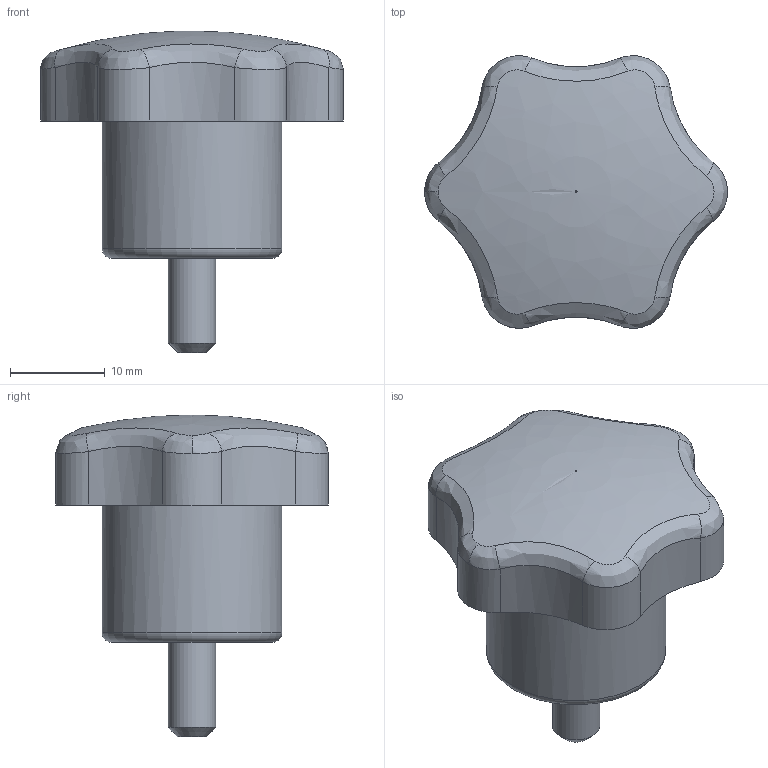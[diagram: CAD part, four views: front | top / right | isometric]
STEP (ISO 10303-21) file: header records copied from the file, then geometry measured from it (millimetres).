
FILE_DESCRIPTION( ('This file contains a STEP AP42 implementation' ,'as created by ZW3D STEP Interface translator.') ,'2;1' );
FILE_NAME( 'Rekojesc gwiazdowa z trzpieniem gwintowanym 32.stp' ,'26 326.143115', (''), ('ZWCAD Software Co.'), 'Version 1.0', 'ZW3D to STEP translator', '' );
FILE_SCHEMA(('AP242_MANAGED_MODEL_BASED_3D_ENGINEERING_MIM_LF { 1 0 10303 442 1 1 4 }'));
Length unit declared in the file: millimetre
Products named in the file (1): 0
Bounding box: 31.99 x 28.78 x 34 mm (x, y, z)
Volume: 9091.1 mm3; surface area: 4258.9 mm2
Topology: 2 solids, 2 shells, 88 faces, 225 edges, 145 vertices
Faces by surface type: plane 44, cylinder 16, bspline 14, torus 13, cone 1
Full cylindrical faces by diameter (mm): 5 x2, 19 x1, 25 x1
Entity records: 3653 total; most frequent: CARTESIAN_POINT 1551, ORIENTED_EDGE 450, DIRECTION 373, EDGE_CURVE 225, VERTEX_POINT 145, AXIS2_PLACEMENT_3D 136, VECTOR 101, LINE 101
